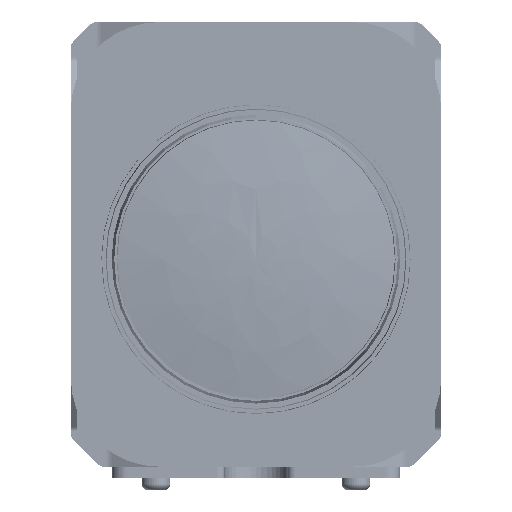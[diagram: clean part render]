
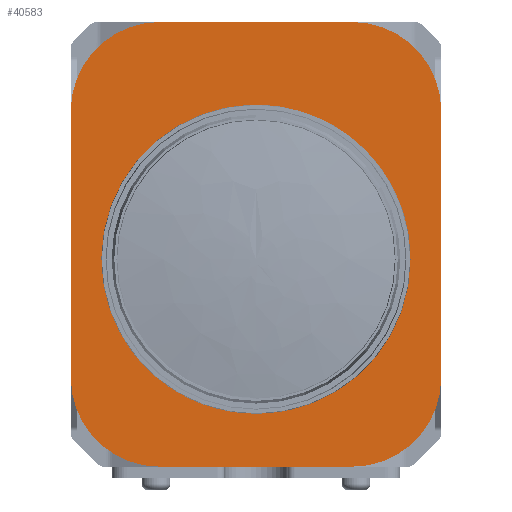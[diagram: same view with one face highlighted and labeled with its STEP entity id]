
A CAD part, left-side view. The second image highlights one B-rep face of the part: STEP entity #40583.
In plain terms, the highlighted planar face has unit normal (-1, 0, 0) as drawn and (1, 0, 0) by its records, which use the part's own axes.
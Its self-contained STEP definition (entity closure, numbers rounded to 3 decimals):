
#40583 = ADVANCED_FACE( '', ( #73557, #73558 ), #73559, .T. );
#73557 = FACE_BOUND( '', #104987, .T. );
#73558 = FACE_OUTER_BOUND( '', #104988, .T. );
#73559 = PLANE( '', #104989 );
#104987 = EDGE_LOOP( '', ( #169696 ) );
#104988 = EDGE_LOOP( '', ( #169697, #169698, #169699, #169700, #169701, #169702, #169703, #169704 ) );
#104989 = AXIS2_PLACEMENT_3D( '', #169705, #169706, #169707 );
#169696 = ORIENTED_EDGE( '', *, *, #194354, .F. );
#169697 = ORIENTED_EDGE( '', *, *, #198918, .T. );
#169698 = ORIENTED_EDGE( '', *, *, #197392, .T. );
#169699 = ORIENTED_EDGE( '', *, *, #196130, .T. );
#169700 = ORIENTED_EDGE( '', *, *, #178730, .T. );
#169701 = ORIENTED_EDGE( '', *, *, #190627, .T. );
#169702 = ORIENTED_EDGE( '', *, *, #195757, .T. );
#169703 = ORIENTED_EDGE( '', *, *, #185761, .T. );
#169704 = ORIENTED_EDGE( '', *, *, #200674, .T. );
#169705 = CARTESIAN_POINT( '', ( 42.95, 0., 0. ) );
#169706 = DIRECTION( '', ( 1., 0., 0. ) );
#169707 = DIRECTION( '', ( 0., 0., -1. ) );
#178730 = EDGE_CURVE( '', #206185, #206187, #206189, .T. );
#185761 = EDGE_CURVE( '', #218159, #218157, #218160, .T. );
#190627 = EDGE_CURVE( '', #206187, #225588, #225590, .T. );
#194354 = EDGE_CURVE( '', #230856, #230856, #230857, .T. );
#195757 = EDGE_CURVE( '', #225588, #218159, #232714, .T. );
#196130 = EDGE_CURVE( '', #233207, #206185, #233208, .T. );
#197392 = EDGE_CURVE( '', #234775, #233207, #234777, .T. );
#198918 = EDGE_CURVE( '', #236568, #234775, #236569, .T. );
#200674 = EDGE_CURVE( '', #218157, #236568, #238514, .T. );
#206185 = VERTEX_POINT( '', #245507 );
#206187 = VERTEX_POINT( '', #245510 );
#206189 = CIRCLE( '', #245513, 12. );
#218157 = VERTEX_POINT( '', #262614 );
#218159 = VERTEX_POINT( '', #262617 );
#218160 = LINE( '', #262618, #262619 );
#225588 = VERTEX_POINT( '', #273454 );
#225590 = LINE( '', #273457, #273458 );
#230856 = VERTEX_POINT( '', #281207 );
#230857 = CIRCLE( '', #281208, 20.1 );
#232714 = CIRCLE( '', #283905, 12. );
#233207 = VERTEX_POINT( '', #284608 );
#233208 = LINE( '', #284609, #284610 );
#234775 = VERTEX_POINT( '', #286938 );
#234777 = CIRCLE( '', #286941, 12. );
#236568 = VERTEX_POINT( '', #289568 );
#236569 = LINE( '', #289569, #289570 );
#238514 = CIRCLE( '', #292232, 12. );
#245507 = CARTESIAN_POINT( '', ( 42.95, -12.995, 59.995 ) );
#245510 = CARTESIAN_POINT( '', ( 42.95, -24.995, 47.995 ) );
#245513 = AXIS2_PLACEMENT_3D( '', #296391, #296392, #296393 );
#262614 = CARTESIAN_POINT( '', ( 42.95, 12.995, 0.005 ) );
#262617 = CARTESIAN_POINT( '', ( 42.95, -12.995, 0.005 ) );
#262618 = CARTESIAN_POINT( '', ( 42.95, -24.995, 0.005 ) );
#262619 = VECTOR( '', #303906, 1000. );
#273454 = CARTESIAN_POINT( '', ( 42.95, -24.995, 12.005 ) );
#273457 = CARTESIAN_POINT( '', ( 42.95, -24.995, 59.995 ) );
#273458 = VECTOR( '', #308898, 1000. );
#281207 = CARTESIAN_POINT( '', ( 42.95, 0., 7.9 ) );
#281208 = AXIS2_PLACEMENT_3D( '', #312582, #312583, #312584 );
#283905 = AXIS2_PLACEMENT_3D( '', #313948, #313949, #313950 );
#284608 = CARTESIAN_POINT( '', ( 42.95, 12.995, 59.995 ) );
#284609 = CARTESIAN_POINT( '', ( 42.95, 24.995, 59.995 ) );
#284610 = VECTOR( '', #314320, 1000. );
#286938 = CARTESIAN_POINT( '', ( 42.95, 24.995, 47.995 ) );
#286941 = AXIS2_PLACEMENT_3D( '', #315355, #315356, #315357 );
#289568 = CARTESIAN_POINT( '', ( 42.95, 24.995, 12.005 ) );
#289569 = CARTESIAN_POINT( '', ( 42.95, 24.995, 0.005 ) );
#289570 = VECTOR( '', #316615, 1000. );
#292232 = AXIS2_PLACEMENT_3D( '', #317960, #317961, #317962 );
#296391 = CARTESIAN_POINT( '', ( 42.95, -12.995, 47.995 ) );
#296392 = DIRECTION( '', ( 1., 0., 0. ) );
#296393 = DIRECTION( '', ( 0., 0., -1. ) );
#303906 = DIRECTION( '', ( 0., 1., 0. ) );
#308898 = DIRECTION( '', ( 0., 0., -1. ) );
#312582 = CARTESIAN_POINT( '', ( 42.95, 0., 28. ) );
#312583 = DIRECTION( '', ( 1., 0., 0. ) );
#312584 = DIRECTION( '', ( 0., 0., -1. ) );
#313948 = CARTESIAN_POINT( '', ( 42.95, -12.995, 12.005 ) );
#313949 = DIRECTION( '', ( 1., 0., 0. ) );
#313950 = DIRECTION( '', ( 0., 0., -1. ) );
#314320 = DIRECTION( '', ( 0., -1., 0. ) );
#315355 = CARTESIAN_POINT( '', ( 42.95, 12.995, 47.995 ) );
#315356 = DIRECTION( '', ( 1., 0., 0. ) );
#315357 = DIRECTION( '', ( 0., 0., -1. ) );
#316615 = DIRECTION( '', ( 0., 0., 1. ) );
#317960 = CARTESIAN_POINT( '', ( 42.95, 12.995, 12.005 ) );
#317961 = DIRECTION( '', ( 1., 0., 0. ) );
#317962 = DIRECTION( '', ( 0., 0., -1. ) );
